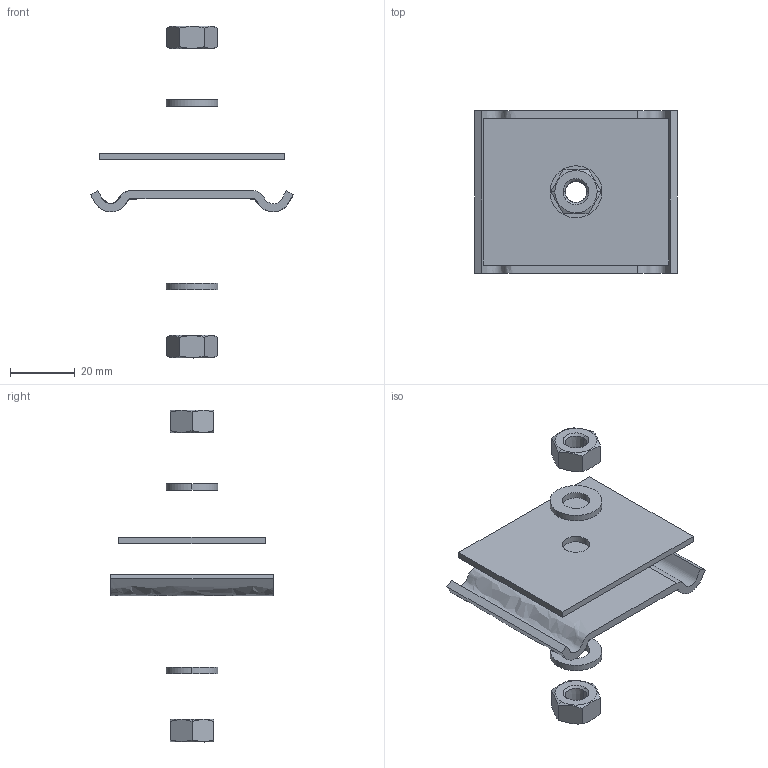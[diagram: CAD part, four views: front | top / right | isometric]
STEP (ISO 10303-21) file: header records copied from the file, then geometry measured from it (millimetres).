
FILE_DESCRIPTION(/* description */ (''),/* implementation_level */ '2;1');
FILE_NAME(/* name */ 'DZM13',/* time_stamp */ '2012-11-29T22:47:47+01:00',/* author */ (''),/* organization */ (''),/* preprocessor_version */ 'ST-DEVELOPER v10',/* originating_system */ '',/* authorisation */ '');
FILE_SCHEMA (('AUTOMOTIVE_DESIGN_CC2'));
Length unit declared in the file: millimetre
Products named in the file (1): 1
Bounding box: 62.45 x 50 x 102.2 mm (x, y, z)
Volume: 2280.7 mm3; surface area: 14967 mm2
Topology: 4 solids, 22 shells, 67 faces, 192 edges, 152 vertices
Faces by surface type: plane 34, bspline 33
Entity records: 3818 total; most frequent: CARTESIAN_POINT 2446, ORIENTED_EDGE 296, EDGE_CURVE 190, VERTEX_POINT 148, B_SPLINE_CURVE_WITH_KNOTS 138, EDGE_LOOP 79, ADVANCED_FACE 67, FACE_OUTER_BOUND 67
